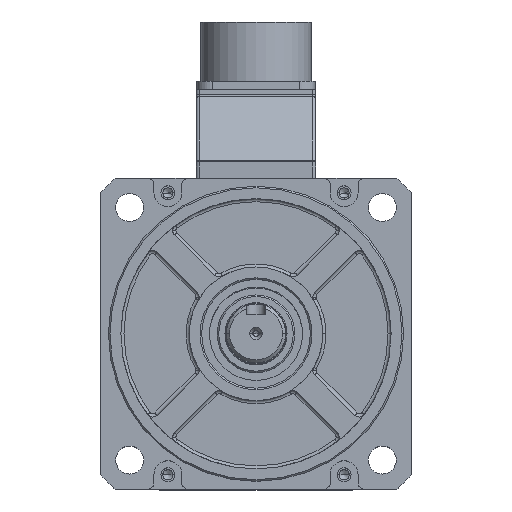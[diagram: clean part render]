
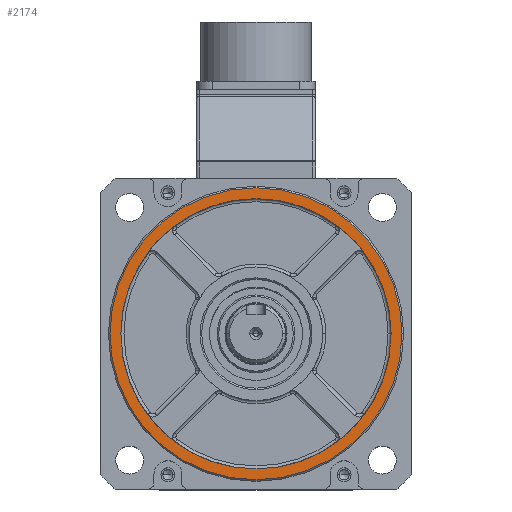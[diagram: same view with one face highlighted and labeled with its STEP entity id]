
A CAD part, top view. The second image highlights one B-rep face of the part: STEP entity #2174.
In plain terms, the highlighted planar face has unit normal (0, 0, 1).
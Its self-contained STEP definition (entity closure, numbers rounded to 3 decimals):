
#2174 = ADVANCED_FACE ( 'NONE', ( #53248, #52677 ), #11722, .T. ) ;
#4200 = DIRECTION ( 'NONE',  ( 1., 0., 0. ) ) ;
#5127 = DIRECTION ( 'NONE',  ( 0., 0., 1. ) ) ;
#5713 = CARTESIAN_POINT ( 'NONE',  ( 0., 0., 13. ) ) ;
#9033 = VERTEX_POINT ( 'NONE', #40457 ) ;
#11722 = PLANE ( 'NONE',  #42361 ) ;
#11827 = CIRCLE ( 'NONE', #22221, 47. ) ;
#12017 = CARTESIAN_POINT ( 'NONE',  ( 0., 0., 13. ) ) ;
#12543 = DIRECTION ( 'NONE',  ( 0., 0., 1. ) ) ;
#12580 = DIRECTION ( 'NONE',  ( 0., 0., 1. ) ) ;
#15038 = ORIENTED_EDGE ( 'NONE', *, *, #27586, .T. ) ;
#17402 = ORIENTED_EDGE ( 'NONE', *, *, #54235, .T. ) ;
#17583 = DIRECTION ( 'NONE',  ( 1., 0., 0. ) ) ;
#17784 = VERTEX_POINT ( 'NONE', #57758 ) ;
#19800 = AXIS2_PLACEMENT_3D ( 'NONE', #21441, #12543, #35094 ) ;
#21113 = ORIENTED_EDGE ( 'NONE', *, *, #49641, .F. ) ;
#21441 = CARTESIAN_POINT ( 'NONE',  ( 0., 0., 13. ) ) ;
#22063 = CIRCLE ( 'NONE', #54304, 43.5 ) ;
#22221 = AXIS2_PLACEMENT_3D ( 'NONE', #5713, #5127, #55006 ) ;
#23290 = CIRCLE ( 'NONE', #40356, 47. ) ;
#24024 = CARTESIAN_POINT ( 'NONE',  ( 43.5, 0., 13. ) ) ;
#24548 = CARTESIAN_POINT ( 'NONE',  ( -43.5, 0., 13. ) ) ;
#26046 = VERTEX_POINT ( 'NONE', #24548 ) ;
#26230 = DIRECTION ( 'NONE',  ( 1., 0., 0. ) ) ;
#27586 = EDGE_CURVE ( 'NONE', #17784, #9033, #11827, .T. ) ;
#30226 = EDGE_LOOP ( 'NONE', ( #21113, #34911 ) ) ;
#33650 = EDGE_CURVE ( 'NONE', #26046, #38289, #22063, .T. ) ;
#34911 = ORIENTED_EDGE ( 'NONE', *, *, #33650, .F. ) ;
#35094 = DIRECTION ( 'NONE',  ( 1., 0., 0. ) ) ;
#38289 = VERTEX_POINT ( 'NONE', #24024 ) ;
#39685 = CIRCLE ( 'NONE', #19800, 43.5 ) ;
#40356 = AXIS2_PLACEMENT_3D ( 'NONE', #52643, #44586, #17583 ) ;
#40457 = CARTESIAN_POINT ( 'NONE',  ( -47., 0., 13. ) ) ;
#42361 = AXIS2_PLACEMENT_3D ( 'NONE', #12017, #56529, #26230 ) ;
#44586 = DIRECTION ( 'NONE',  ( 0., 0., 1. ) ) ;
#44986 = EDGE_LOOP ( 'NONE', ( #17402, #15038 ) ) ;
#49641 = EDGE_CURVE ( 'NONE', #38289, #26046, #39685, .T. ) ;
#52643 = CARTESIAN_POINT ( 'NONE',  ( 0., 0., 13. ) ) ;
#52677 = FACE_BOUND ( 'NONE', #30226, .T. ) ;
#53248 = FACE_OUTER_BOUND ( 'NONE', #44986, .T. ) ;
#54097 = CARTESIAN_POINT ( 'NONE',  ( 0., 0., 13. ) ) ;
#54235 = EDGE_CURVE ( 'NONE', #9033, #17784, #23290, .T. ) ;
#54304 = AXIS2_PLACEMENT_3D ( 'NONE', #54097, #12580, #4200 ) ;
#55006 = DIRECTION ( 'NONE',  ( 1., 0., 0. ) ) ;
#56529 = DIRECTION ( 'NONE',  ( 0., 0., 1. ) ) ;
#57758 = CARTESIAN_POINT ( 'NONE',  ( 47., 0., 13. ) ) ;
